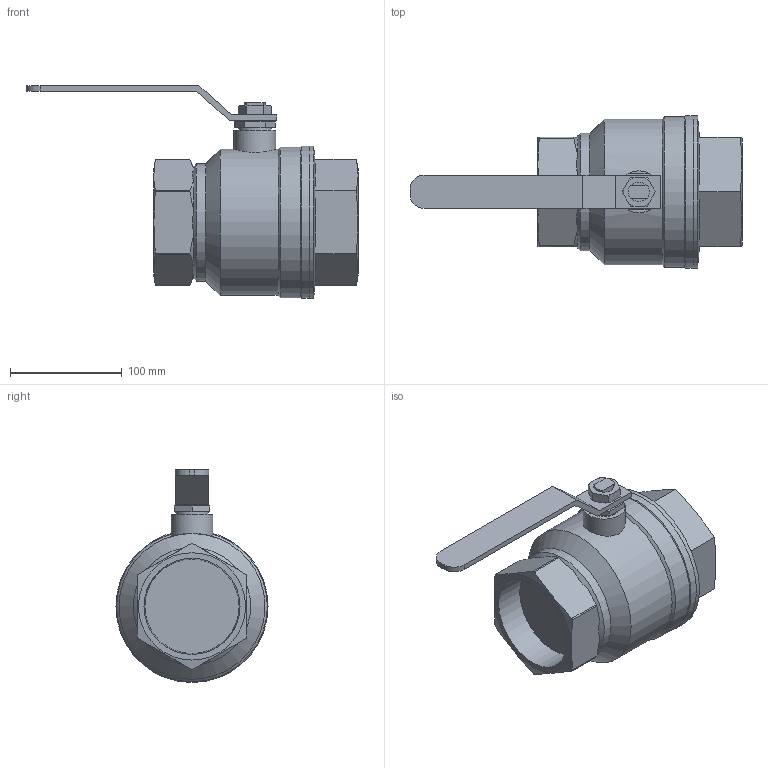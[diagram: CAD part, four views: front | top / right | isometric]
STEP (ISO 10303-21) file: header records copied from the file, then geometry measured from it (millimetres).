
FILE_DESCRIPTION((' '),'2;1');
FILE_NAME('N:\Technical Support\Private\Jomar Valve CAD\Ball Valves\Brass\T-100NE[G]\3.0 T-100NE (100-710)FusionCopy.stp.step','2016-07-28T09:42:47',(' '),(' '),' ','ACIS',' ');
FILE_SCHEMA(('CONFIG_CONTROL_DESIGN'));
Length unit declared in the file: inch
Products named in the file (8): N:\Technical Support\Private\Jomar Valve CAD\Ball Valves\Brass\T-100NE[G]\3.0 T-100NE (100-710)FusionCopy.stp.step; Body1; Body2; Body3; Body4; Body5; Body6; Body7
Assembly tree (7 placements, depth 2):
  N:\Technical Support\Private\Jomar Valve CAD\Ball Valves\Brass\T-100NE[G]\3.0 T-100NE (100-710)FusionCopy.stp.step
    Body1
    Body2
    Body3
    Body4
    Body5
    Body6
    Body7
Bounding box: 297.4 x 136.27 x 190.73 mm (x, y, z)
Volume: 1792494.8 mm3; surface area: 162623.7 mm2
Topology: 7 solids, 7 shells, 102 faces, 250 edges, 166 vertices
Faces by surface type: plane 53, cone 26, cylinder 21, bspline 2
Full cylindrical faces by diameter (mm): 17.399 x1, 22.53 x1, 28.956 x1, 37.592 x1, 105.283 x1, 130.683 x1, 135.001 x1, 136.271 x2
Entity records: 4047 total; most frequent: CARTESIAN_POINT 804, ORIENTED_EDGE 446, DIRECTION 432, EDGE_CURVE 223, AXIS2_PLACEMENT_3D 168, VERTEX_POINT 157, EDGE_LOOP 128, FACE_OUTER_BOUND 102
